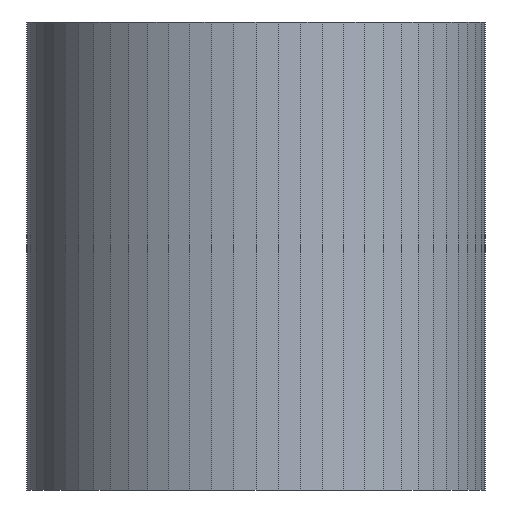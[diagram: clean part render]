
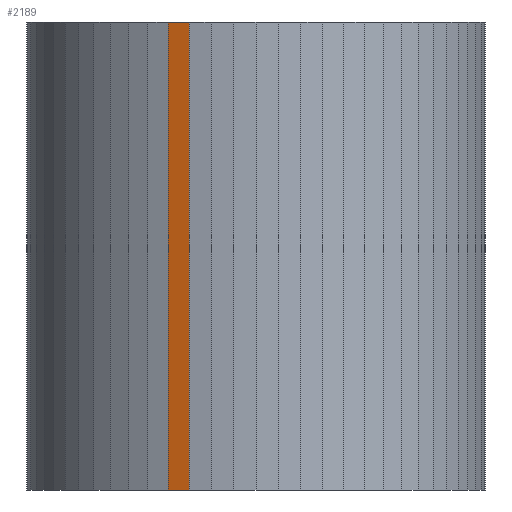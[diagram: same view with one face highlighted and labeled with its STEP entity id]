
A CAD part, left-side view. The second image highlights one B-rep face of the part: STEP entity #2189.
In plain terms, the highlighted planar face has unit normal (-0.942, 0.337, 0).
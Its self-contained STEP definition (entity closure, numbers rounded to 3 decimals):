
#72 = PLANE('',#73);
#73 = AXIS2_PLACEMENT_3D('',#74,#75,#76);
#74 = CARTESIAN_POINT('',(4.,4.,3.5));
#75 = DIRECTION('',(0.,0.,1.));
#76 = DIRECTION('',(1.,0.,-0.));
#126 = PLANE('',#127);
#127 = AXIS2_PLACEMENT_3D('',#128,#129,#130);
#128 = CARTESIAN_POINT('',(4.,4.,-1.6));
#129 = DIRECTION('',(0.,0.,1.));
#130 = DIRECTION('',(1.,0.,-0.));
#2081 = PLANE('',#2082);
#2082 = AXIS2_PLACEMENT_3D('',#2083,#2084,#2085);
#2083 = CARTESIAN_POINT('',(1.795,5.178,-1.6));
#2084 = DIRECTION('',(0.904,-0.428,0.));
#2085 = DIRECTION('',(-0.428,-0.904,0.));
#2119 = VERTEX_POINT('',#2120);
#2120 = CARTESIAN_POINT('',(1.69,4.957,3.5));
#2141 = EDGE_CURVE('',#2142,#2119,#2144,.T.);
#2142 = VERTEX_POINT('',#2143);
#2143 = CARTESIAN_POINT('',(1.69,4.957,-1.6));
#2144 = SURFACE_CURVE('',#2145,(#2149,#2156),.PCURVE_S1.);
#2145 = LINE('',#2146,#2147);
#2146 = CARTESIAN_POINT('',(1.69,4.957,-1.6));
#2147 = VECTOR('',#2148,1.);
#2148 = DIRECTION('',(0.,0.,1.));
#2149 = PCURVE('',#2081,#2150);
#2150 = DEFINITIONAL_REPRESENTATION('',(#2151),#2155);
#2151 = LINE('',#2152,#2153);
#2152 = CARTESIAN_POINT('',(0.245,0.));
#2153 = VECTOR('',#2154,1.);
#2154 = DIRECTION('',(0.,-1.));
#2155 = ( GEOMETRIC_REPRESENTATION_CONTEXT(2) 
PARAMETRIC_REPRESENTATION_CONTEXT() REPRESENTATION_CONTEXT('2D SPACE',''
  ) );
#2156 = PCURVE('',#2157,#2162);
#2157 = PLANE('',#2158);
#2158 = AXIS2_PLACEMENT_3D('',#2159,#2160,#2161);
#2159 = CARTESIAN_POINT('',(1.69,4.957,-1.6));
#2160 = DIRECTION('',(0.942,-0.337,0.));
#2161 = DIRECTION('',(-0.337,-0.942,0.));
#2162 = DEFINITIONAL_REPRESENTATION('',(#2163),#2167);
#2163 = LINE('',#2164,#2165);
#2164 = CARTESIAN_POINT('',(0.,0.));
#2165 = VECTOR('',#2166,1.);
#2166 = DIRECTION('',(0.,-1.));
#2167 = ( GEOMETRIC_REPRESENTATION_CONTEXT(2) 
PARAMETRIC_REPRESENTATION_CONTEXT() REPRESENTATION_CONTEXT('2D SPACE',''
  ) );
#2189 = ADVANCED_FACE('',(#2190),#2157,.F.);
#2190 = FACE_BOUND('',#2191,.F.);
#2191 = EDGE_LOOP('',(#2192,#2193,#2216,#2244));
#2192 = ORIENTED_EDGE('',*,*,#2141,.T.);
#2193 = ORIENTED_EDGE('',*,*,#2194,.T.);
#2194 = EDGE_CURVE('',#2119,#2195,#2197,.T.);
#2195 = VERTEX_POINT('',#2196);
#2196 = CARTESIAN_POINT('',(1.608,4.726,3.5));
#2197 = SURFACE_CURVE('',#2198,(#2202,#2209),.PCURVE_S1.);
#2198 = LINE('',#2199,#2200);
#2199 = CARTESIAN_POINT('',(1.69,4.957,3.5));
#2200 = VECTOR('',#2201,1.);
#2201 = DIRECTION('',(-0.337,-0.942,0.));
#2202 = PCURVE('',#2157,#2203);
#2203 = DEFINITIONAL_REPRESENTATION('',(#2204),#2208);
#2204 = LINE('',#2205,#2206);
#2205 = CARTESIAN_POINT('',(0.,-5.1));
#2206 = VECTOR('',#2207,1.);
#2207 = DIRECTION('',(1.,0.));
#2208 = ( GEOMETRIC_REPRESENTATION_CONTEXT(2) 
PARAMETRIC_REPRESENTATION_CONTEXT() REPRESENTATION_CONTEXT('2D SPACE',''
  ) );
#2209 = PCURVE('',#72,#2210);
#2210 = DEFINITIONAL_REPRESENTATION('',(#2211),#2215);
#2211 = LINE('',#2212,#2213);
#2212 = CARTESIAN_POINT('',(-2.31,0.957));
#2213 = VECTOR('',#2214,1.);
#2214 = DIRECTION('',(-0.337,-0.942));
#2215 = ( GEOMETRIC_REPRESENTATION_CONTEXT(2) 
PARAMETRIC_REPRESENTATION_CONTEXT() REPRESENTATION_CONTEXT('2D SPACE',''
  ) );
#2216 = ORIENTED_EDGE('',*,*,#2217,.F.);
#2217 = EDGE_CURVE('',#2218,#2195,#2220,.T.);
#2218 = VERTEX_POINT('',#2219);
#2219 = CARTESIAN_POINT('',(1.608,4.726,-1.6));
#2220 = SURFACE_CURVE('',#2221,(#2225,#2232),.PCURVE_S1.);
#2221 = LINE('',#2222,#2223);
#2222 = CARTESIAN_POINT('',(1.608,4.726,-1.6));
#2223 = VECTOR('',#2224,1.);
#2224 = DIRECTION('',(0.,0.,1.));
#2225 = PCURVE('',#2157,#2226);
#2226 = DEFINITIONAL_REPRESENTATION('',(#2227),#2231);
#2227 = LINE('',#2228,#2229);
#2228 = CARTESIAN_POINT('',(0.245,0.));
#2229 = VECTOR('',#2230,1.);
#2230 = DIRECTION('',(0.,-1.));
#2231 = ( GEOMETRIC_REPRESENTATION_CONTEXT(2) 
PARAMETRIC_REPRESENTATION_CONTEXT() REPRESENTATION_CONTEXT('2D SPACE',''
  ) );
#2232 = PCURVE('',#2233,#2238);
#2233 = PLANE('',#2234);
#2234 = AXIS2_PLACEMENT_3D('',#2235,#2236,#2237);
#2235 = CARTESIAN_POINT('',(1.608,4.726,-1.6));
#2236 = DIRECTION('',(0.97,-0.243,0.));
#2237 = DIRECTION('',(-0.243,-0.97,0.));
#2238 = DEFINITIONAL_REPRESENTATION('',(#2239),#2243);
#2239 = LINE('',#2240,#2241);
#2240 = CARTESIAN_POINT('',(0.,0.));
#2241 = VECTOR('',#2242,1.);
#2242 = DIRECTION('',(0.,-1.));
#2243 = ( GEOMETRIC_REPRESENTATION_CONTEXT(2) 
PARAMETRIC_REPRESENTATION_CONTEXT() REPRESENTATION_CONTEXT('2D SPACE',''
  ) );
#2244 = ORIENTED_EDGE('',*,*,#2245,.F.);
#2245 = EDGE_CURVE('',#2142,#2218,#2246,.T.);
#2246 = SURFACE_CURVE('',#2247,(#2251,#2258),.PCURVE_S1.);
#2247 = LINE('',#2248,#2249);
#2248 = CARTESIAN_POINT('',(1.69,4.957,-1.6));
#2249 = VECTOR('',#2250,1.);
#2250 = DIRECTION('',(-0.337,-0.942,0.));
#2251 = PCURVE('',#2157,#2252);
#2252 = DEFINITIONAL_REPRESENTATION('',(#2253),#2257);
#2253 = LINE('',#2254,#2255);
#2254 = CARTESIAN_POINT('',(0.,0.));
#2255 = VECTOR('',#2256,1.);
#2256 = DIRECTION('',(1.,0.));
#2257 = ( GEOMETRIC_REPRESENTATION_CONTEXT(2) 
PARAMETRIC_REPRESENTATION_CONTEXT() REPRESENTATION_CONTEXT('2D SPACE',''
  ) );
#2258 = PCURVE('',#126,#2259);
#2259 = DEFINITIONAL_REPRESENTATION('',(#2260),#2264);
#2260 = LINE('',#2261,#2262);
#2261 = CARTESIAN_POINT('',(-2.31,0.957));
#2262 = VECTOR('',#2263,1.);
#2263 = DIRECTION('',(-0.337,-0.942));
#2264 = ( GEOMETRIC_REPRESENTATION_CONTEXT(2) 
PARAMETRIC_REPRESENTATION_CONTEXT() REPRESENTATION_CONTEXT('2D SPACE',''
  ) );
